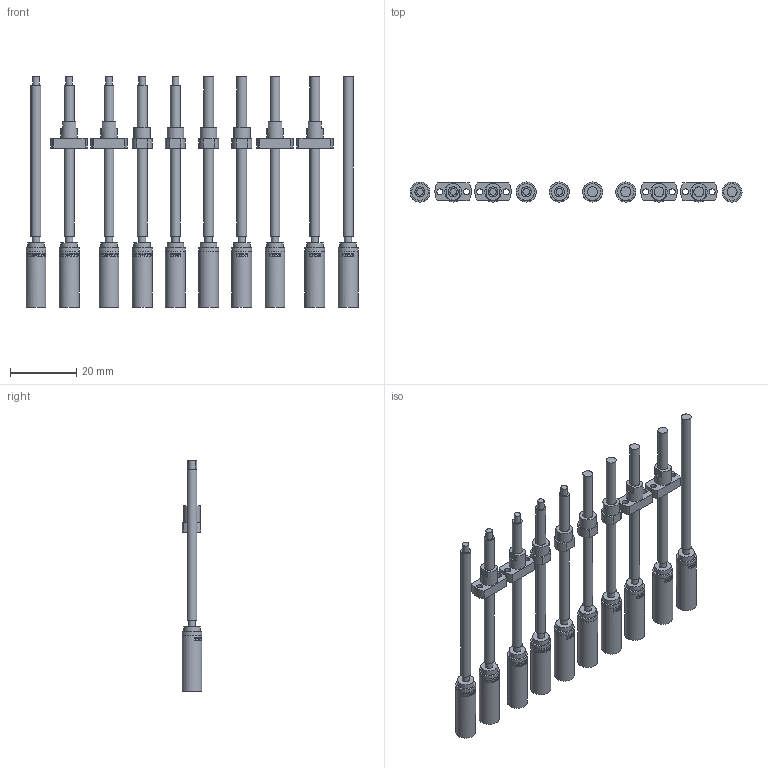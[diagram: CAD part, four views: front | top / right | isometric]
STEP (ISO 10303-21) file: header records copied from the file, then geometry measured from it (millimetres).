
FILE_DESCRIPTION(/* description */ (''),/* implementation_level */ '2;1');
FILE_NAME(/* name */ '06L-4stage_SL_standard_KWNx_KWS1.stp',/* time_stamp */ '2023-05-12T06:41:16+02:00',/* author */ ('DR. FRITZ FAULHABER GmbH & Co. KG'),/* organization */ ('DR. FRITZ FAULHABER GmbH & Co. KG'),/* preprocessor_version */ 'ST-DEVELOPER v16.7',/* originating_system */ 'SIEMENS PLM Software NX 1919',/* authorisation */ '');
FILE_SCHEMA (('AUTOMOTIVE_DESIGN { 1 0 10303 214 3 1 1 1 }'));
Length unit declared in the file: millimetre
Products named in the file (1): H99999996-C-Linear Actuato
Bounding box: 100 x 6 x 69.4 mm (x, y, z)
Volume: 9449.6 mm3; surface area: 10625 mm2
Topology: 10 solids, 10 shells, 970 faces, 2327 edges, 1552 vertices
Faces by surface type: plane 494, bspline 245, cylinder 211, cone 20
Full cylindrical faces by diameter (mm): 1.8 x8, 1.95 x10, 2 x5, 2.2 x10, 2.35 x10, 2.8 x10, 3 x18, 3.959 x10, 5 x28, 5.8 x10, 6 x20
Entity records: 41249 total; most frequent: CARTESIAN_POINT 17614, ORIENTED_EDGE 4244, DIRECTION 2899, EDGE_CURVE 2122, VERTEX_POINT 1508, EDGE_LOOP 1322, AXIS2_PLACEMENT_3D 1249, B_SPLINE_CURVE_WITH_KNOTS 1198
